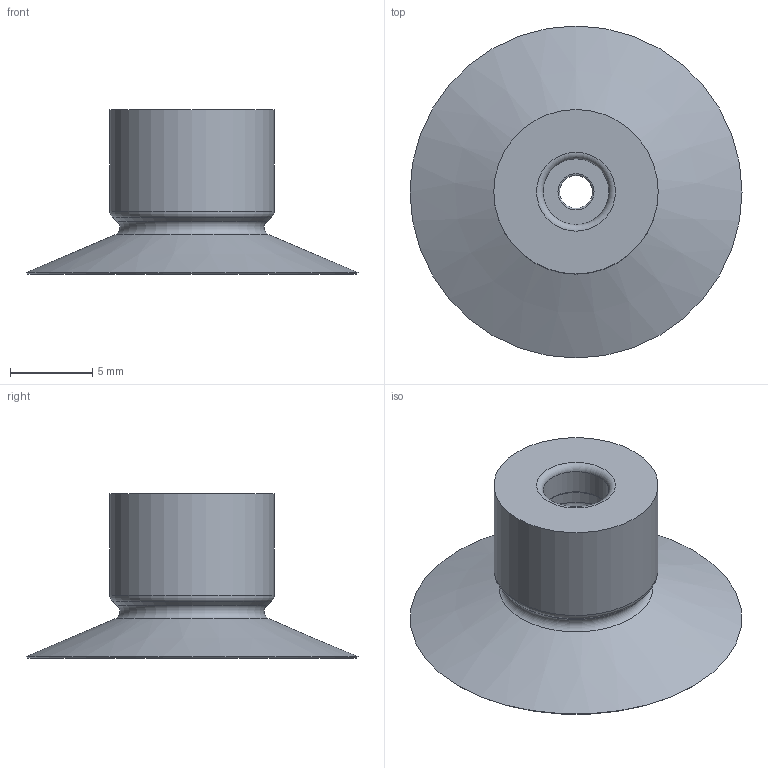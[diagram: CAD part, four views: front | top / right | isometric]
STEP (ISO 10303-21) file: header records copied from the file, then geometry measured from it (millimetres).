
FILE_DESCRIPTION(('STEP AP203'),'1');
FILE_NAME('_3D.stp','2024-06-11T23:10:29',(' '),(' '),'Spatial InterOp 3D',' ',' ');
FILE_SCHEMA(('CONFIG_CONTROL_DESIGN'));
Length unit declared in the file: millimetre
Products named in the file (1): 1
Bounding box: 20.19 x 20.19 x 10 mm (x, y, z)
Volume: 606.7 mm3; surface area: 1075.5 mm2
Topology: 1 solids, 1 shells, 55 faces, 94 edges, 61 vertices
Faces by surface type: cylinder 22, plane 22, torus 7, cone 4
Full cylindrical faces by diameter (mm): 0.9 x4, 1.1 x14, 2 x1, 4 x1, 6 x1, 10 x1
Entity records: 1152 total; most frequent: DIRECTION 222, CARTESIAN_POINT 166, AXIS2_PLACEMENT_3D 111, EDGE_LOOP 110, ORIENTED_EDGE 110, FACE_OUTER_BOUND 84, ADVANCED_FACE 55, EDGE_CURVE 55
